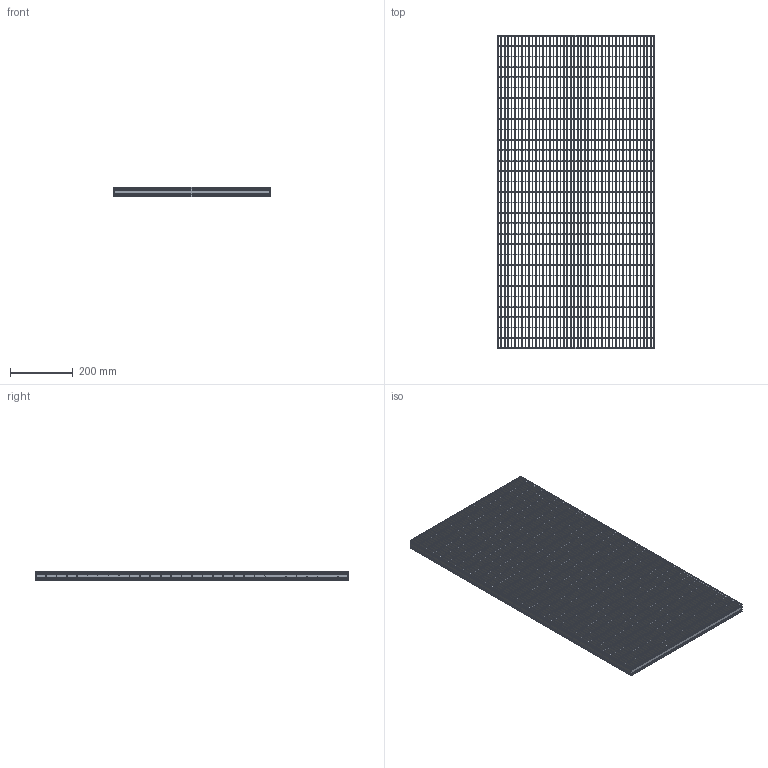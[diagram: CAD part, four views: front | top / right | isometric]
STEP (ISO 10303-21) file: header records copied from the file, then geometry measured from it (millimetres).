
FILE_DESCRIPTION(/* description */ ('STEP AP242','CAx-IF Rec.Pracs.---Representation and Presentation of Product Manufacturing Information (PMI)---4.0---2014-10-13','CAx-IF Rec.Pracs.---3D Tessellated Geometry---0.4---2014-09-14','2;1'),/* implementation_level */ '2;1');
FILE_NAME(/* name */ 'Lichtgitter_Pressure_locked_gratings P 230-33_11-2-1-1-500-1000_(350_0)',/* time_stamp */ '2026-04-23T09:58:53+02:00',/* author */ ('License CC BY-ND 4.0'),/* organization */ ('CADENAS'),/* preprocessor_version */ 'ST-DEVELOPER v20',/* originating_system */ 'PARTsolutions',/* authorisation */ ' ');
FILE_SCHEMA (('AP242_MANAGED_MODEL_BASED_3D_ENGINEERING_MIM_LF { 1 0 10303 442 1 1 4 }'));
Length unit declared in the file: millimetre
Products named in the file (5): Lichtgitter_Pressure_locked_gratings P 230-33/11-2-1-1-500-1000_(350_
0); Lichtgitter P 230-11.11/33-2_(Pressroste_350_1_1000_500)_VERTICAL; Lichtgitter P 230-11.11/33-2_(Pressroste_350_1_1000_500)_HORIZONTAL_C; Lichtgitter P 230-11.11/33-2_(Pressroste_350_1_1000_500)_HORIZONTAL; Lichtgitter P 230-11.11/33-2_(Pressroste_350_1_1000_500)_VERTICAL_C
Assembly tree (77 placements, depth 2):
  Lichtgitter_Pressure_locked_gratings P 230-33/11-2-1-1-500-1000_(350_
0)
    Lichtgitter P 230-11.11/33-2_(Pressroste_350_1_1000_500)_VERTICAL  x2
    Lichtgitter P 230-11.11/33-2_(Pressroste_350_1_1000_500)_HORIZONTAL_C  x29
    Lichtgitter P 230-11.11/33-2_(Pressroste_350_1_1000_500)_HORIZONTAL  x2
    Lichtgitter P 230-11.11/33-2_(Pressroste_350_1_1000_500)_VERTICAL_C  x44
Bounding box: 500 x 1000 x 30 mm (x, y, z)
Volume: 1893448.5 mm3; surface area: 2184017.9 mm2
Topology: 77 solids, 77 shells, 5614 faces, 16380 edges, 10920 vertices
Faces by surface type: plane 5582, cylinder 32
Entity records: 7947 total; most frequent: CARTESIAN_POINT 1382, ORIENTED_EDGE 1296, DIRECTION 1284, EDGE_CURVE 648, LINE 616, VECTOR 616, VERTEX_POINT 432, AXIS2_PLACEMENT_3D 334
